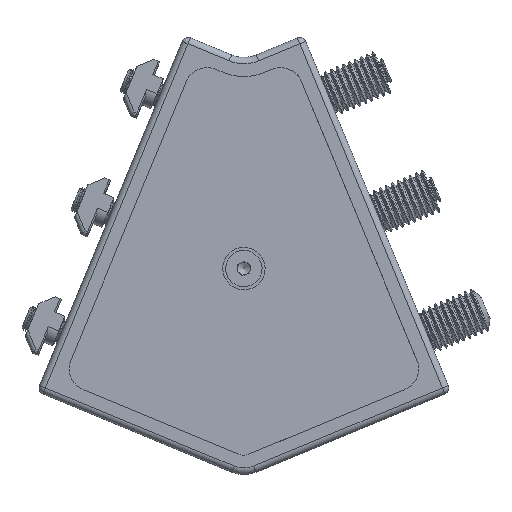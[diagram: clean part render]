
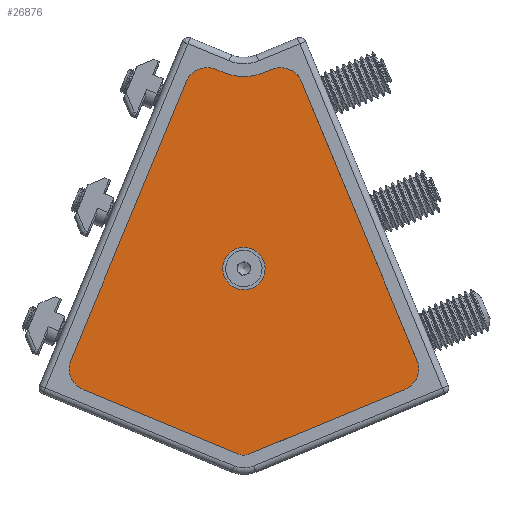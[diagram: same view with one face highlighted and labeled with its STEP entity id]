
A CAD part, top view. The second image highlights one B-rep face of the part: STEP entity #26876.
In plain terms, the highlighted planar face has unit normal (0, 0, 1).
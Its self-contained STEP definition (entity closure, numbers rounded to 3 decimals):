
#927=FACE_BOUND('',#4288,.T.);
#1243=PLANE('',#28521);
#2607=FACE_OUTER_BOUND('',#4287,.T.);
#4287=EDGE_LOOP('',(#20574,#20575,#20576,#20577,#20578,#20579,#20580,#20581,
#20582,#20583,#20584,#20585));
#4288=EDGE_LOOP('',(#20586));
#6326=LINE('',#51867,#8362);
#6332=LINE('',#51880,#8368);
#6334=LINE('',#51885,#8370);
#6340=LINE('',#51898,#8376);
#6344=LINE('',#51907,#8380);
#6346=LINE('',#51912,#8382);
#8362=VECTOR('',#32943,1000.);
#8368=VECTOR('',#32951,1000.);
#8370=VECTOR('',#32955,1000.);
#8376=VECTOR('',#32963,1000.);
#8380=VECTOR('',#32969,1000.);
#8382=VECTOR('',#32973,1000.);
#9606=CIRCLE('',#28514,6.6);
#9607=CIRCLE('',#28522,4.);
#9608=CIRCLE('',#28523,7.);
#9609=CIRCLE('',#28524,7.);
#9610=CIRCLE('',#28525,16.);
#9611=CIRCLE('',#28526,7.);
#9612=CIRCLE('',#28527,7.);
#11873=VERTEX_POINT('',#51861);
#11874=VERTEX_POINT('',#51865);
#11875=VERTEX_POINT('',#51866);
#11880=VERTEX_POINT('',#51877);
#11881=VERTEX_POINT('',#51879);
#11882=VERTEX_POINT('',#51883);
#11883=VERTEX_POINT('',#51884);
#11888=VERTEX_POINT('',#51895);
#11889=VERTEX_POINT('',#51897);
#11892=VERTEX_POINT('',#51904);
#11893=VERTEX_POINT('',#51906);
#11894=VERTEX_POINT('',#51910);
#11895=VERTEX_POINT('',#51911);
#14982=EDGE_CURVE('',#11873,#11873,#9606,.T.);
#14983=EDGE_CURVE('',#11874,#11875,#6326,.T.);
#14989=EDGE_CURVE('',#11881,#11880,#6332,.T.);
#14991=EDGE_CURVE('',#11882,#11883,#6334,.T.);
#14997=EDGE_CURVE('',#11889,#11888,#6340,.T.);
#15001=EDGE_CURVE('',#11893,#11892,#6344,.T.);
#15003=EDGE_CURVE('',#11894,#11895,#6346,.T.);
#15007=EDGE_CURVE('',#11880,#11882,#9607,.T.);
#15008=EDGE_CURVE('',#11883,#11889,#9608,.T.);
#15009=EDGE_CURVE('',#11888,#11893,#9609,.T.);
#15010=EDGE_CURVE('',#11892,#11894,#9610,.T.);
#15011=EDGE_CURVE('',#11895,#11874,#9611,.T.);
#15012=EDGE_CURVE('',#11875,#11881,#9612,.T.);
#20574=ORIENTED_EDGE('',*,*,#14989,.T.);
#20575=ORIENTED_EDGE('',*,*,#15007,.T.);
#20576=ORIENTED_EDGE('',*,*,#14991,.T.);
#20577=ORIENTED_EDGE('',*,*,#15008,.T.);
#20578=ORIENTED_EDGE('',*,*,#14997,.T.);
#20579=ORIENTED_EDGE('',*,*,#15009,.T.);
#20580=ORIENTED_EDGE('',*,*,#15001,.T.);
#20581=ORIENTED_EDGE('',*,*,#15010,.T.);
#20582=ORIENTED_EDGE('',*,*,#15003,.T.);
#20583=ORIENTED_EDGE('',*,*,#15011,.T.);
#20584=ORIENTED_EDGE('',*,*,#14983,.T.);
#20585=ORIENTED_EDGE('',*,*,#15012,.T.);
#20586=ORIENTED_EDGE('',*,*,#14982,.F.);
#26876=ADVANCED_FACE('',(#2607,#927),#1243,.T.);
#28514=AXIS2_PLACEMENT_3D('',#51863,#32939,#32940);
#28521=AXIS2_PLACEMENT_3D('',#51918,#32977,#32978);
#28522=AXIS2_PLACEMENT_3D('',#51919,#32979,#32980);
#28523=AXIS2_PLACEMENT_3D('',#51920,#32981,#32982);
#28524=AXIS2_PLACEMENT_3D('',#51921,#32983,#32984);
#28525=AXIS2_PLACEMENT_3D('',#51922,#32985,#32986);
#28526=AXIS2_PLACEMENT_3D('',#51923,#32987,#32988);
#28527=AXIS2_PLACEMENT_3D('',#51924,#32989,#32990);
#32939=DIRECTION('center_axis',(0.,0.,
1.));
#32940=DIRECTION('ref_axis',(-0.383,0.924,0.));
#32943=DIRECTION('',(-0.383,-0.924,0.));
#32951=DIRECTION('',(0.924,-0.383,0.));
#32955=DIRECTION('',(0.924,0.383,0.));
#32963=DIRECTION('',(-0.383,0.924,0.));
#32969=DIRECTION('',(-0.924,-0.383,0.));
#32973=DIRECTION('',(-0.924,0.383,0.));
#32977=DIRECTION('center_axis',(0.,0.,
1.));
#32978=DIRECTION('ref_axis',(-0.383,0.924,0.));
#32979=DIRECTION('center_axis',(0.,0.,
1.));
#32980=DIRECTION('ref_axis',(-0.383,0.924,0.));
#32981=DIRECTION('center_axis',(0.,0.,
1.));
#32982=DIRECTION('ref_axis',(-0.383,0.924,0.));
#32983=DIRECTION('center_axis',(0.,0.,
1.));
#32984=DIRECTION('ref_axis',(-0.383,0.924,0.));
#32985=DIRECTION('center_axis',(0.,0.,
-1.));
#32986=DIRECTION('ref_axis',(-0.383,0.924,0.));
#32987=DIRECTION('center_axis',(0.,0.,
1.));
#32988=DIRECTION('ref_axis',(-0.383,0.924,0.));
#32989=DIRECTION('center_axis',(0.,0.,
1.));
#32990=DIRECTION('ref_axis',(-0.383,0.924,0.));
#51861=CARTESIAN_POINT('',(42.54,-1.049,20.));
#51863=CARTESIAN_POINT('Origin',(40.015,5.049,20.));
#51865=CARTESIAN_POINT('',(22.095,63.344,20.));
#51866=CARTESIAN_POINT('',(-13.877,-23.501,20.));
#51867=CARTESIAN_POINT('',(24.774,69.811,20.));
#51877=CARTESIAN_POINT('',(38.484,-52.766,20.));
#51879=CARTESIAN_POINT('',(-10.089,-32.647,20.));
#51880=CARTESIAN_POINT('',(-16.556,-29.968,20.));
#51883=CARTESIAN_POINT('',(41.545,-52.766,20.));
#51884=CARTESIAN_POINT('',(90.118,-32.647,20.));
#51885=CARTESIAN_POINT('',(96.585,-29.968,20.));
#51895=CARTESIAN_POINT('',(57.934,63.344,20.));
#51897=CARTESIAN_POINT('',(93.906,-23.501,20.));
#51898=CARTESIAN_POINT('',(55.255,69.811,20.));
#51904=CARTESIAN_POINT('',(46.137,66.034,20.));
#51906=CARTESIAN_POINT('',(48.788,67.132,20.));
#51907=CARTESIAN_POINT('',(55.255,69.811,20.));
#51910=CARTESIAN_POINT('',(33.892,66.034,20.));
#51911=CARTESIAN_POINT('',(31.241,67.132,20.));
#51912=CARTESIAN_POINT('',(24.774,69.811,20.));
#51918=CARTESIAN_POINT('Origin',(40.015,27.524,20.));
#51919=CARTESIAN_POINT('Origin',(40.015,-49.071,20.));
#51920=CARTESIAN_POINT('Origin',(87.439,-26.179,20.));
#51921=CARTESIAN_POINT('Origin',(51.467,60.665,20.));
#51922=CARTESIAN_POINT('Origin',(40.015,80.817,20.));
#51923=CARTESIAN_POINT('Origin',(28.562,60.665,20.));
#51924=CARTESIAN_POINT('Origin',(-7.41,-26.179,20.));
